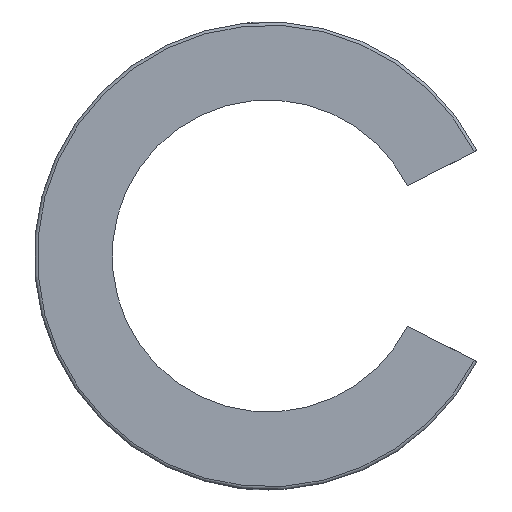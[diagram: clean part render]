
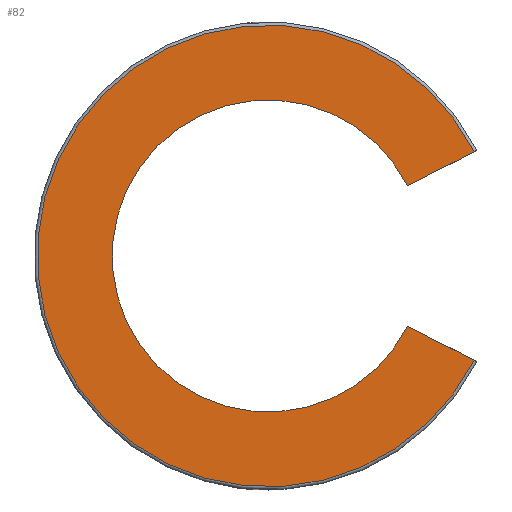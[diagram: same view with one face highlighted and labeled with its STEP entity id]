
A CAD part, left-side view. The second image highlights one B-rep face of the part: STEP entity #82.
In plain terms, the highlighted planar face has unit normal (-1, 0, 0).
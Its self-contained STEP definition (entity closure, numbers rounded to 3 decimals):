
#82=ADVANCED_FACE('',(#112),#113,.T.);
#112=FACE_OUTER_BOUND('',#156,.T.);
#113=PLANE('',#157);
#156=EDGE_LOOP('',(#245,#246,#247,#248));
#157=AXIS2_PLACEMENT_3D('',#249,#250,#251);
#245=ORIENTED_EDGE('',*,*,#352,.T.);
#246=ORIENTED_EDGE('',*,*,#365,.T.);
#247=ORIENTED_EDGE('',*,*,#366,.F.);
#248=ORIENTED_EDGE('',*,*,#349,.T.);
#249=CARTESIAN_POINT('',(-50.0,25.0,0.0));
#250=DIRECTION('',(-1.0,0.0,0.0));
#251=DIRECTION('',(0.0,0.0,1.0));
#349=EDGE_CURVE('',#383,#407,#409,.T.);
#352=EDGE_CURVE('',#407,#412,#414,.T.);
#365=EDGE_CURVE('',#412,#434,#435,.T.);
#366=EDGE_CURVE('',#383,#434,#436,.T.);
#383=VERTEX_POINT('',#461);
#407=VERTEX_POINT('',#501);
#409=LINE('',#508,#509);
#412=VERTEX_POINT('',#512);
#414=CIRCLE('',#519,37.0);
#434=VERTEX_POINT('',#662);
#435=LINE('',#663,#664);
#436=CIRCLE('',#665,25.0);
#461=CARTESIAN_POINT('',(-50.0,-22.326,11.25));
#501=CARTESIAN_POINT('',(-50.,-33.018,16.698));
#508=CARTESIAN_POINT('',(-50.0,19.797,-10.212));
#509=VECTOR('',#711,1.0);
#512=CARTESIAN_POINT('',(-50.,-33.018,-16.698));
#519=AXIS2_PLACEMENT_3D('',#715,#716,#717);
#662=CARTESIAN_POINT('',(-50.0,-22.326,-11.25));
#663=CARTESIAN_POINT('',(-50.0,19.797,10.212));
#664=VECTOR('',#738,1.0);
#665=AXIS2_PLACEMENT_3D('',#739,#740,#741);
#711=DIRECTION('',(0.0,-0.891,0.454));
#715=CARTESIAN_POINT('',(-50.0,0.0,0.0));
#716=DIRECTION('',(-1.0,0.0,0.0));
#717=DIRECTION('',(0.0,0.0,1.0));
#738=DIRECTION('',(0.0,0.891,0.454));
#739=CARTESIAN_POINT('',(-50.0,0.0,0.0));
#740=DIRECTION('',(-1.0,0.0,0.0));
#741=DIRECTION('',(0.0,0.0,1.0));
